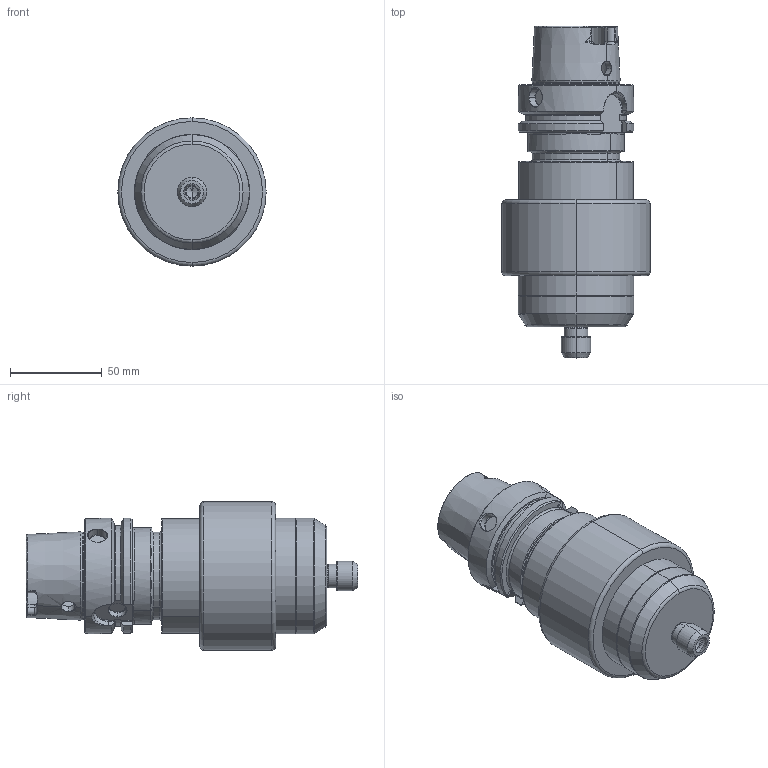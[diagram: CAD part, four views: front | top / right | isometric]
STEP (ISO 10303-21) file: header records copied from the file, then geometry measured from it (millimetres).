
FILE_DESCRIPTION (( 'STEP AP214' ), '1' );
FILE_NAME ('TJS GJET HSK A63 V4 - Light.STEP', '2025-11-09T12:24:24', ( 'pc' ), ( '' ), 'SwSTEP 2.0', 'SolidWorks 2024', '' );
FILE_SCHEMA (( 'AUTOMOTIVE_DESIGN' ));
Length unit declared in the file: millimetre
Products named in the file (1): TJS GJET HSK A63 V4 - Light
Bounding box: 81 x 181.3 x 81 mm (x, y, z)
Volume: 474831.3 mm3; surface area: 53372.4 mm2
Topology: 1 solids, 1 shells, 271 faces, 689 edges, 427 vertices
Faces by surface type: cylinder 82, cone 72, torus 57, plane 57, bspline 3
Entity records: 10803 total; most frequent: CARTESIAN_POINT 4374, ORIENTED_EDGE 1370, DIRECTION 1352, EDGE_CURVE 685, AXIS2_PLACEMENT_3D 571, VERTEX_POINT 427, CIRCLE 302, EDGE_LOOP 286
